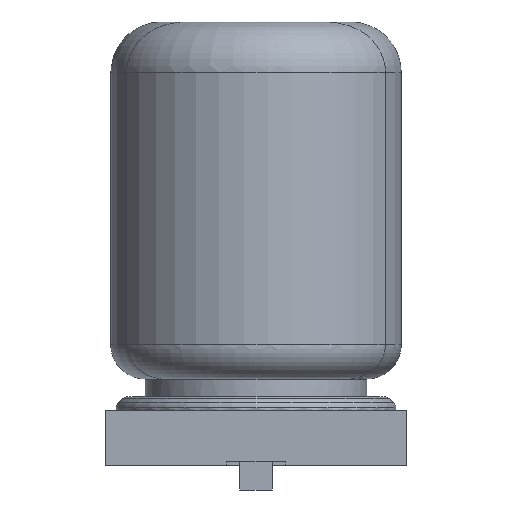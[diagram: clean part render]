
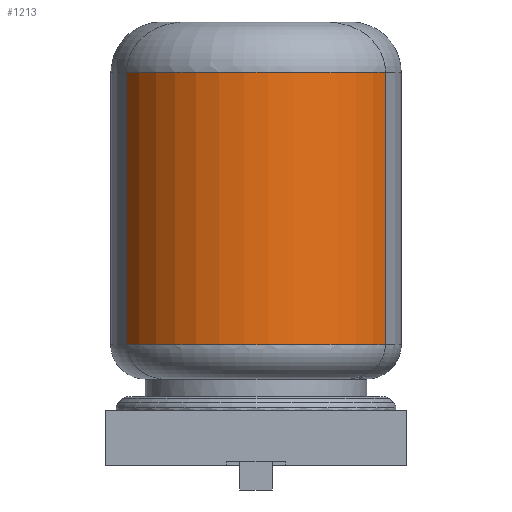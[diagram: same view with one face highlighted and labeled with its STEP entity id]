
A CAD part, left-side view. The second image highlights one B-rep face of the part: STEP entity #1213.
In plain terms, the highlighted cylindrical face has radius 4 mm (diameter 8 mm), a partial arc.
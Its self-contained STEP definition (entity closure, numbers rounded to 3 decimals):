
#23=CYLINDRICAL_SURFACE('',#1279,4.);
#36=LINE('',#1567,#133);
#37=LINE('',#1571,#134);
#133=VECTOR('',#1324,1000.);
#134=VECTOR('',#1327,1000.);
#374=ORIENTED_EDGE('',*,*,#472,.F.);
#375=ORIENTED_EDGE('',*,*,#555,.F.);
#376=ORIENTED_EDGE('',*,*,#474,.F.);
#377=ORIENTED_EDGE('',*,*,#556,.T.);
#472=EDGE_CURVE('',#588,#590,#36,.F.);
#474=EDGE_CURVE('',#591,#589,#37,.T.);
#555=EDGE_CURVE('',#589,#588,#674,.T.);
#556=EDGE_CURVE('',#591,#590,#675,.T.);
#588=VERTEX_POINT('',#1554);
#589=VERTEX_POINT('',#1555);
#590=VERTEX_POINT('',#1568);
#591=VERTEX_POINT('',#1570);
#674=CIRCLE('',#1278,4.);
#675=CIRCLE('',#1280,4.);
#708=EDGE_LOOP('',(#374,#375,#376,#377));
#765=FACE_BOUND('',#708,.T.);
#1213=ADVANCED_FACE('',(#765),#23,.T.);
#1278=AXIS2_PLACEMENT_3D('',#1737,#1457,#1458);
#1279=AXIS2_PLACEMENT_3D('',#1738,#1459,#1460);
#1280=AXIS2_PLACEMENT_3D('',#1739,#1461,#1462);
#1324=DIRECTION('',(0.,0.,1.));
#1327=DIRECTION('',(0.,0.,1.));
#1457=DIRECTION('',(0.,0.,1.));
#1458=DIRECTION('',(1.,0.,0.));
#1459=DIRECTION('',(0.,0.,1.));
#1460=DIRECTION('',(1.,0.,0.));
#1461=DIRECTION('',(0.,0.,1.));
#1462=DIRECTION('',(1.,0.,0.));
#1554=CARTESIAN_POINT('',(-1.813,-3.566,10.812));
#1555=CARTESIAN_POINT('',(-1.813,3.566,10.812));
#1567=CARTESIAN_POINT('',(-1.813,-3.566,-0.913));
#1568=CARTESIAN_POINT('',(-1.813,-3.566,3.319));
#1570=CARTESIAN_POINT('',(-1.813,3.566,3.319));
#1571=CARTESIAN_POINT('',(-1.813,3.566,-0.913));
#1737=CARTESIAN_POINT('',(0.,0.,10.812));
#1738=CARTESIAN_POINT('',(0.,0.,-0.913));
#1739=CARTESIAN_POINT('',(0.,0.,3.319));
